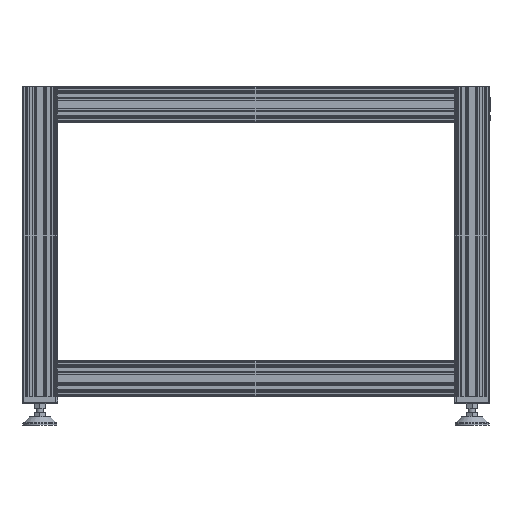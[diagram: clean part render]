
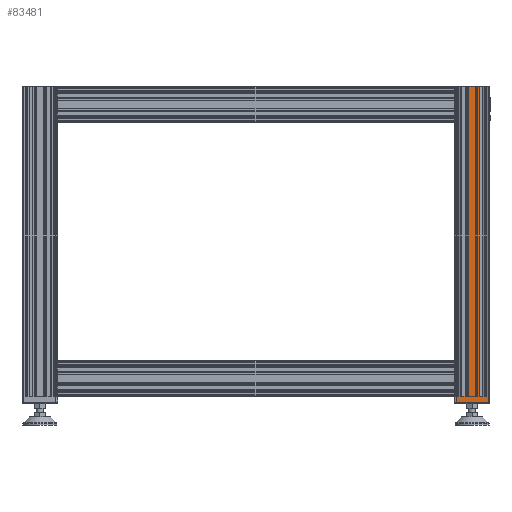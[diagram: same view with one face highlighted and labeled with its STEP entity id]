
A CAD part, left-side view. The second image highlights one B-rep face of the part: STEP entity #83481.
In plain terms, the highlighted planar face has unit normal (-1, 0, 0).
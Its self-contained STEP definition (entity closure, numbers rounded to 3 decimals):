
#7191=FACE_OUTER_BOUND('',#11365,.T.);
#11365=EDGE_LOOP('',(#73753,#73754,#73755,#73756,#73757,#73758,#73759,#73760,
#73761,#73762,#73763,#73764));
#15350=LINE('',#124385,#25095);
#15364=LINE('',#124413,#25109);
#15378=LINE('',#124441,#25123);
#20630=LINE('',#139091,#30375);
#20632=LINE('',#139113,#30377);
#20657=LINE('',#139162,#30402);
#20658=LINE('',#139165,#30403);
#20659=LINE('',#139167,#30404);
#20660=LINE('',#139168,#30405);
#20661=LINE('',#139170,#30406);
#20662=LINE('',#139171,#30407);
#20663=LINE('',#139172,#30408);
#25095=VECTOR('',#97895,1000.);
#25109=VECTOR('',#97909,1000.);
#25123=VECTOR('',#97923,1000.);
#30375=VECTOR('',#109073,1000.);
#30377=VECTOR('',#109077,1000.);
#30402=VECTOR('',#109126,1000.);
#30403=VECTOR('',#109129,1000.);
#30404=VECTOR('',#109130,1.);
#30405=VECTOR('',#109131,1000.);
#30406=VECTOR('',#109132,1000.);
#30407=VECTOR('',#109133,1.);
#30408=VECTOR('',#109134,1.);
#34871=VERTEX_POINT('',#124382);
#34872=VERTEX_POINT('',#124384);
#34885=VERTEX_POINT('',#124410);
#34886=VERTEX_POINT('',#124412);
#34899=VERTEX_POINT('',#124438);
#34900=VERTEX_POINT('',#124440);
#38631=VERTEX_POINT('',#139090);
#38634=VERTEX_POINT('',#139111);
#38646=VERTEX_POINT('',#139160);
#38647=VERTEX_POINT('',#139164);
#38648=VERTEX_POINT('',#139166);
#38649=VERTEX_POINT('',#139169);
#44208=EDGE_CURVE('',#34871,#34872,#15350,.T.);
#44222=EDGE_CURVE('',#34885,#34886,#15364,.T.);
#44236=EDGE_CURVE('',#34899,#34900,#15378,.T.);
#50601=EDGE_CURVE('',#34900,#38631,#20630,.T.);
#50605=EDGE_CURVE('',#34899,#38634,#20632,.T.);
#50630=EDGE_CURVE('',#34886,#38646,#20657,.T.);
#50631=EDGE_CURVE('',#34885,#38647,#20658,.T.);
#50632=EDGE_CURVE('',#38647,#38648,#20659,.T.);
#50633=EDGE_CURVE('',#34872,#38648,#20660,.T.);
#50634=EDGE_CURVE('',#34871,#38649,#20661,.T.);
#50635=EDGE_CURVE('',#38631,#38649,#20662,.T.);
#50636=EDGE_CURVE('',#38634,#38646,#20663,.T.);
#73753=ORIENTED_EDGE('',*,*,#50630,.F.);
#73754=ORIENTED_EDGE('',*,*,#44222,.F.);
#73755=ORIENTED_EDGE('',*,*,#50631,.T.);
#73756=ORIENTED_EDGE('',*,*,#50632,.T.);
#73757=ORIENTED_EDGE('',*,*,#50633,.F.);
#73758=ORIENTED_EDGE('',*,*,#44208,.F.);
#73759=ORIENTED_EDGE('',*,*,#50634,.T.);
#73760=ORIENTED_EDGE('',*,*,#50635,.F.);
#73761=ORIENTED_EDGE('',*,*,#50601,.F.);
#73762=ORIENTED_EDGE('',*,*,#44236,.F.);
#73763=ORIENTED_EDGE('',*,*,#50605,.T.);
#73764=ORIENTED_EDGE('',*,*,#50636,.T.);
#79659=PLANE('',#89276);
#83481=ADVANCED_FACE('',(#7191),#79659,.F.);
#89276=AXIS2_PLACEMENT_3D('',#139163,#109127,#109128);
#97895=DIRECTION('',(0.,-1.,0.));
#97909=DIRECTION('',(0.,-1.,0.));
#97923=DIRECTION('',(0.,-1.,0.));
#109073=DIRECTION('',(0.,0.,-1.));
#109077=DIRECTION('',(0.,0.,-1.));
#109126=DIRECTION('',(0.,0.,-1.));
#109127=DIRECTION('center_axis',(1.,0.,0.));
#109128=DIRECTION('ref_axis',(0.,0.,
1.));
#109129=DIRECTION('',(0.,0.,-1.));
#109130=DIRECTION('',(0.,1.,0.));
#109131=DIRECTION('',(0.,0.,-1.));
#109132=DIRECTION('',(0.,0.,-1.));
#109133=DIRECTION('',(0.,1.,0.));
#109134=DIRECTION('',(0.,1.,0.));
#124382=CARTESIAN_POINT('',(-480.,-424.,-40.));
#124384=CARTESIAN_POINT('',(-480.,-436.,-40.));
#124385=CARTESIAN_POINT('',(-480.,-424.,-40.));
#124410=CARTESIAN_POINT('',(-480.,-444.,-40.));
#124412=CARTESIAN_POINT('',(-480.,-476.,-40.));
#124413=CARTESIAN_POINT('',(-480.,-444.,-40.));
#124438=CARTESIAN_POINT('',(-480.,-484.,-40.));
#124440=CARTESIAN_POINT('',(-480.,-496.,-40.));
#124441=CARTESIAN_POINT('',(-480.,-484.,-40.));
#139090=CARTESIAN_POINT('',(-480.,-496.,-748.));
#139091=CARTESIAN_POINT('',(-480.,-496.,-40.));
#139111=CARTESIAN_POINT('',(-480.,-484.,-735.));
#139113=CARTESIAN_POINT('',(-480.,-484.,-40.));
#139160=CARTESIAN_POINT('',(-480.,-476.,-735.));
#139162=CARTESIAN_POINT('',(-480.,-476.,-40.));
#139163=CARTESIAN_POINT('Origin',(-480.,-444.,-40.));
#139164=CARTESIAN_POINT('',(-480.,-444.,-735.));
#139165=CARTESIAN_POINT('',(-480.,-444.,-40.));
#139166=CARTESIAN_POINT('',(-480.,-436.,-735.));
#139167=CARTESIAN_POINT('',(-480.,-496.,-735.));
#139168=CARTESIAN_POINT('',(-480.,-436.,-40.));
#139169=CARTESIAN_POINT('',(-480.,-424.,-748.));
#139170=CARTESIAN_POINT('',(-480.,-424.,-40.));
#139171=CARTESIAN_POINT('',(-480.,-460.,-748.));
#139172=CARTESIAN_POINT('',(-480.,-496.,-735.));
